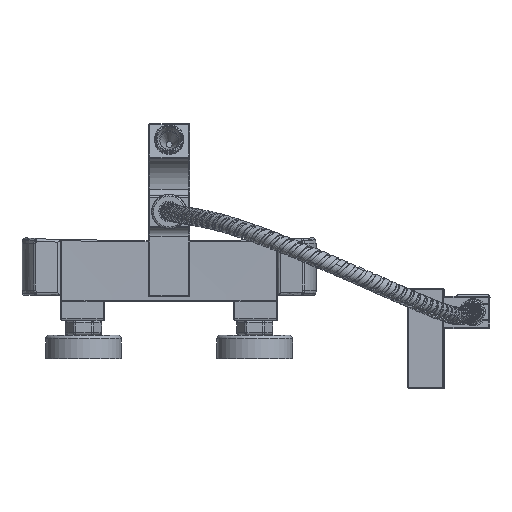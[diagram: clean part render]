
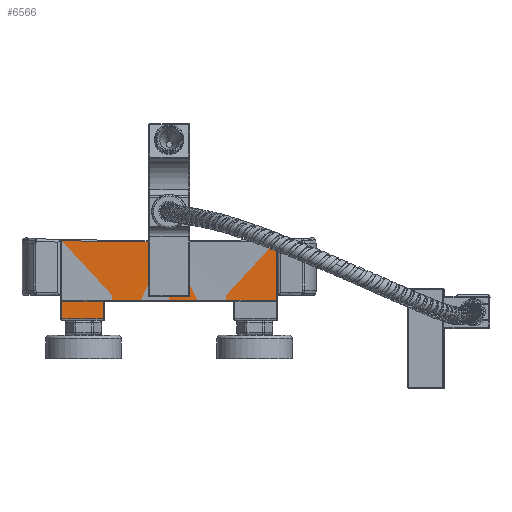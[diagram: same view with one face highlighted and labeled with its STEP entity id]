
A CAD part, front view. The second image highlights one B-rep face of the part: STEP entity #6566.
In plain terms, the highlighted cylindrical face has radius 3000 mm (diameter 6000 mm), a partial arc.
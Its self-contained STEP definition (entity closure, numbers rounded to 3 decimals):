
#6566=ADVANCED_FACE('',(#58877),#58879,.F.);
#58877=FACE_BOUND('',#58878,.T.);
#58878=EDGE_LOOP('',(#68501,#68502,#68503,#68504,#68505,#68506,#68507));
#58879=CYLINDRICAL_SURFACE('',#58880,3000.);
#58880=AXIS2_PLACEMENT_3D('',#58881,#58882,#58883);
#58881=CARTESIAN_POINT('',(0.,-3043.724,50.));
#58882=DIRECTION('',(-0.,-0.,-1.));
#58883=DIRECTION('',(-1.,0.,0.));
#68501=ORIENTED_EDGE('',*,*,#72039,.F.);
#68502=ORIENTED_EDGE('',*,*,#72040,.T.);
#68503=ORIENTED_EDGE('',*,*,#72041,.T.);
#68504=ORIENTED_EDGE('',*,*,#72042,.T.);
#68505=ORIENTED_EDGE('',*,*,#72043,.T.);
#68506=ORIENTED_EDGE('',*,*,#72044,.T.);
#68507=ORIENTED_EDGE('',*,*,#72045,.T.);
#72039=EDGE_CURVE('',#75543,#75544,#75545,.T.);
#72040=EDGE_CURVE('',#75543,#75546,#75547,.T.);
#72041=EDGE_CURVE('',#75546,#75548,#75549,.T.);
#72042=EDGE_CURVE('',#75548,#75550,#75551,.T.);
#72043=EDGE_CURVE('',#75550,#75552,#75553,.T.);
#72044=EDGE_CURVE('',#75552,#75554,#75555,.T.);
#72045=EDGE_CURVE('',#75554,#75544,#75556,.T.);
#75543=VERTEX_POINT('',#104159);
#75544=VERTEX_POINT('',#104160);
#75545=B_SPLINE_CURVE_WITH_KNOTS('',3,
(#104161,#104162,#104163,#104164,#104165,#104166,#104167,#104168,#104169,#104170,
#104171,#104172,#104173,#104174),
.UNSPECIFIED.,.F.,.F.,
(4,2,2,2,2,2,4),
(0.,0.25,0.5,0.625,0.75,0.875,1.),
.UNSPECIFIED.);
#75546=VERTEX_POINT('',#104175);
#75547=CIRCLE('',#104176,3000.);
#75548=VERTEX_POINT('',#104180);
#75549=LINE('',#104181,#104182);
#75550=VERTEX_POINT('',#104184);
#75551=(BOUNDED_CURVE()B_SPLINE_CURVE(3,
(#104185,#104186,#104187,#104188),
.UNSPECIFIED.,.F.,.F.)B_SPLINE_CURVE_WITH_KNOTS((4,4),
(0.,1.),
.UNSPECIFIED.)CURVE()GEOMETRIC_REPRESENTATION_ITEM()RATIONAL_B_SPLINE_CURVE((1.,
1.,1.,1.))REPRESENTATION_ITEM(''));
#75552=VERTEX_POINT('',#104189);
#75553=LINE('',#104190,#104191);
#75554=VERTEX_POINT('',#104193);
#75555=CIRCLE('',#104194,3000.);
#75556=LINE('',#104198,#104199);
#104159=CARTESIAN_POINT('',(-50.828,-44.154,1.));
#104160=CARTESIAN_POINT('',(-52.828,-44.189,-1.));
#104161=CARTESIAN_POINT('',(-50.828,-44.154,1.));
#104162=CARTESIAN_POINT('',(-51.092,-44.159,1.));
#104163=CARTESIAN_POINT('',(-51.355,-44.163,0.947));
#104164=CARTESIAN_POINT('',(-51.835,-44.172,0.747));
#104165=CARTESIAN_POINT('',(-52.058,-44.175,0.598));
#104166=CARTESIAN_POINT('',(-52.335,-44.18,0.321));
#104167=CARTESIAN_POINT('',(-52.419,-44.182,0.218));
#104168=CARTESIAN_POINT('',(-52.564,-44.184,0.001));
#104169=CARTESIAN_POINT('',(-52.625,-44.185,-0.114));
#104170=CARTESIAN_POINT('',(-52.725,-44.187,-0.356));
#104171=CARTESIAN_POINT('',(-52.764,-44.188,-0.483));
#104172=CARTESIAN_POINT('',(-52.815,-44.189,-0.738));
#104173=CARTESIAN_POINT('',(-52.828,-44.189,-0.868));
#104174=CARTESIAN_POINT('',(-52.828,-44.189,-1.));
#104175=CARTESIAN_POINT('',(86.471,-44.97,1.));
#104176=AXIS2_PLACEMENT_3D('',#104177,#104178,#104179);
#104177=CARTESIAN_POINT('',(0.,-3043.724,1.));
#104178=DIRECTION('',(0.,0.,-1.));
#104179=DIRECTION('',(-0.017,1.,0.));
#104180=CARTESIAN_POINT('',(86.471,-44.97,48.971));
#104181=CARTESIAN_POINT('',(86.471,-44.97,1.));
#104182=VECTOR('',#104183,1.);
#104183=DIRECTION('',(0.,0.,1.));
#104184=CARTESIAN_POINT('',(-86.471,-44.97,48.971));
#104185=CARTESIAN_POINT('',(86.471,-44.97,48.971));
#104186=CARTESIAN_POINT('',(28.832,-43.308,47.308));
#104187=CARTESIAN_POINT('',(-28.832,-43.308,47.308));
#104188=CARTESIAN_POINT('',(-86.471,-44.97,48.971));
#104189=CARTESIAN_POINT('',(-86.471,-44.97,-14.));
#104190=CARTESIAN_POINT('',(-86.471,-44.97,48.971));
#104191=VECTOR('',#104192,1.);
#104192=DIRECTION('',(0.,0.,-1.));
#104193=CARTESIAN_POINT('',(-52.828,-44.189,-14.));
#104194=AXIS2_PLACEMENT_3D('',#104195,#104196,#104197);
#104195=CARTESIAN_POINT('',(0.,-3043.724,-14.));
#104196=DIRECTION('',(0.,0.,-1.));
#104197=DIRECTION('',(-0.029,1.,0.));
#104198=CARTESIAN_POINT('',(-52.828,-44.189,-14.));
#104199=VECTOR('',#104200,1.);
#104200=DIRECTION('',(0.,0.,1.));
